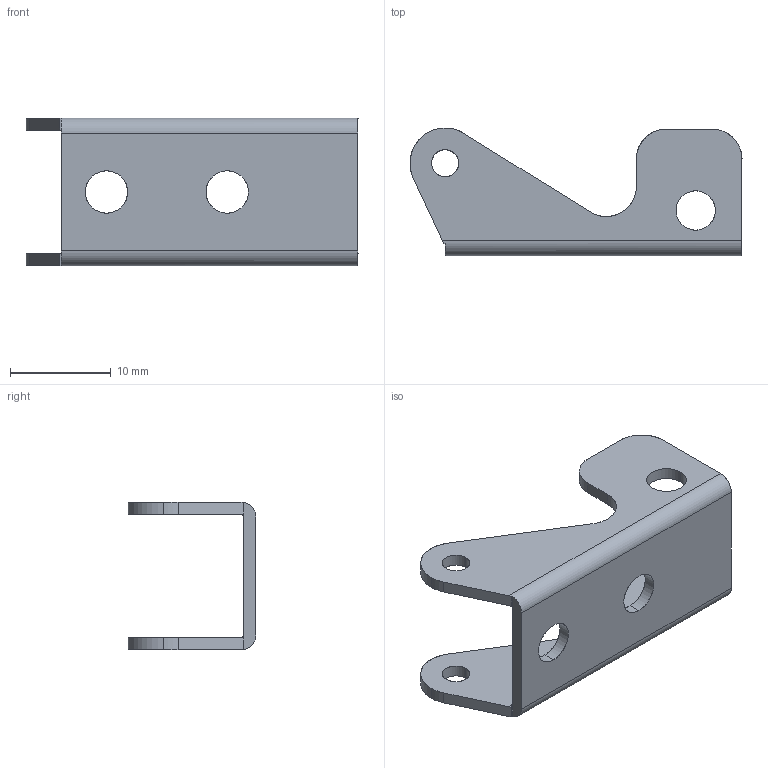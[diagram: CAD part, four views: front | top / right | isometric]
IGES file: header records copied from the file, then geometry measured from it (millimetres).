
Start section: SolidWorks IGES FILE using analytic representation for surfaces
Global section: file name: C:\Documents and Settings\lecoutey\Bureau\GP 2029\2029.020.010.IGS; native system: SolidWorks 2004 by SolidWorks Corporation; preprocessor: Version 5.3; author: lecoutey; date: 050329.160338; units: millimetre
Bounding box: 33 x 12.7 x 14.7 mm (x, y, z)
Surface area: 2019.9 mm2 (no closed solid volume)
Topology: 0 solids, 0 shells, 44 faces, 768 edges, 768 vertices
Faces by surface type: revolution 26, bspline 18
